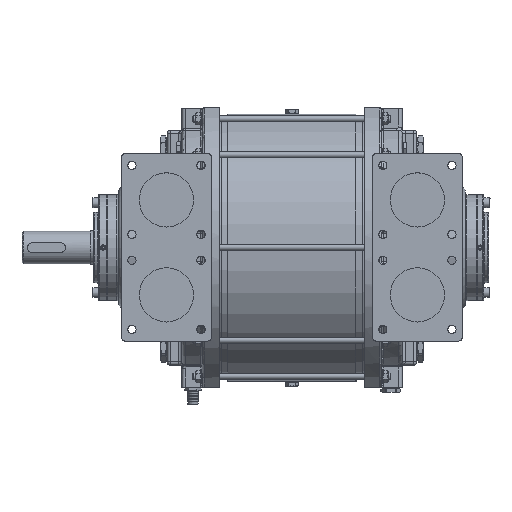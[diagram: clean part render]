
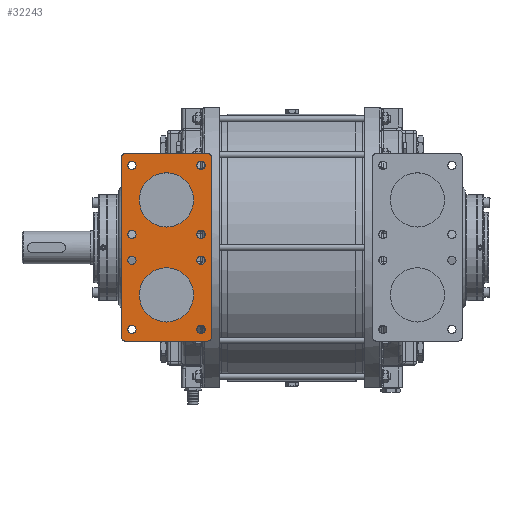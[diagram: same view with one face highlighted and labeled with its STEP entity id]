
A CAD part, top view. The second image highlights one B-rep face of the part: STEP entity #32243.
In plain terms, the highlighted planar face has unit normal (0, 0, 1).
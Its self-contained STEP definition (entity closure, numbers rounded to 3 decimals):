
#1930=FACE_BOUND('',#5820,.T.);
#1931=FACE_BOUND('',#5821,.T.);
#1932=FACE_BOUND('',#5822,.T.);
#1933=FACE_BOUND('',#5823,.T.);
#1934=FACE_BOUND('',#5824,.T.);
#1935=FACE_BOUND('',#5825,.T.);
#1936=FACE_BOUND('',#5826,.T.);
#1937=FACE_BOUND('',#5827,.T.);
#1938=FACE_BOUND('',#5828,.T.);
#1939=FACE_BOUND('',#5829,.T.);
#2535=PLANE('',#35025);
#3721=FACE_OUTER_BOUND('',#5819,.T.);
#5819=EDGE_LOOP('',(#24231,#24232,#24233,#24234,#24235,#24236,#24237,#24238));
#5820=EDGE_LOOP('',(#24239));
#5821=EDGE_LOOP('',(#24240));
#5822=EDGE_LOOP('',(#24241));
#5823=EDGE_LOOP('',(#24242));
#5824=EDGE_LOOP('',(#24243));
#5825=EDGE_LOOP('',(#24244));
#5826=EDGE_LOOP('',(#24245));
#5827=EDGE_LOOP('',(#24246));
#5828=EDGE_LOOP('',(#24247));
#5829=EDGE_LOOP('',(#24248));
#7787=LINE('',#53021,#9500);
#7788=LINE('',#53025,#9501);
#7789=LINE('',#53029,#9502);
#7790=LINE('',#53033,#9503);
#9500=VECTOR('',#41375,10.);
#9501=VECTOR('',#41378,10.);
#9502=VECTOR('',#41381,10.);
#9503=VECTOR('',#41384,10.);
#10300=CIRCLE('',#33224,50.);
#10306=CIRCLE('',#33236,50.);
#11120=CIRCLE('',#35026,6.);
#11121=CIRCLE('',#35027,6.);
#11122=CIRCLE('',#35028,6.);
#11123=CIRCLE('',#35029,6.);
#11124=CIRCLE('',#35030,7.5);
#11125=CIRCLE('',#35031,7.5);
#11126=CIRCLE('',#35032,7.5);
#11127=CIRCLE('',#35033,7.5);
#11128=CIRCLE('',#35034,7.5);
#11129=CIRCLE('',#35035,7.5);
#11130=CIRCLE('',#35036,7.5);
#11131=CIRCLE('',#35037,7.5);
#12091=VERTEX_POINT('',#45833);
#12097=VERTEX_POINT('',#45854);
#13699=VERTEX_POINT('',#53019);
#13700=VERTEX_POINT('',#53020);
#13701=VERTEX_POINT('',#53022);
#13702=VERTEX_POINT('',#53024);
#13703=VERTEX_POINT('',#53026);
#13704=VERTEX_POINT('',#53028);
#13705=VERTEX_POINT('',#53030);
#13706=VERTEX_POINT('',#53032);
#13707=VERTEX_POINT('',#53035);
#13708=VERTEX_POINT('',#53037);
#13709=VERTEX_POINT('',#53039);
#13710=VERTEX_POINT('',#53041);
#13711=VERTEX_POINT('',#53043);
#13712=VERTEX_POINT('',#53045);
#13713=VERTEX_POINT('',#53047);
#13714=VERTEX_POINT('',#53049);
#14931=EDGE_CURVE('',#12091,#12091,#10300,.T.);
#14940=EDGE_CURVE('',#12097,#12097,#10306,.T.);
#17364=EDGE_CURVE('',#13699,#13700,#7787,.T.);
#17365=EDGE_CURVE('',#13700,#13701,#11120,.T.);
#17366=EDGE_CURVE('',#13701,#13702,#7788,.T.);
#17367=EDGE_CURVE('',#13702,#13703,#11121,.T.);
#17368=EDGE_CURVE('',#13703,#13704,#7789,.T.);
#17369=EDGE_CURVE('',#13704,#13705,#11122,.T.);
#17370=EDGE_CURVE('',#13705,#13706,#7790,.T.);
#17371=EDGE_CURVE('',#13706,#13699,#11123,.T.);
#17372=EDGE_CURVE('',#13707,#13707,#11124,.T.);
#17373=EDGE_CURVE('',#13708,#13708,#11125,.T.);
#17374=EDGE_CURVE('',#13709,#13709,#11126,.T.);
#17375=EDGE_CURVE('',#13710,#13710,#11127,.T.);
#17376=EDGE_CURVE('',#13711,#13711,#11128,.T.);
#17377=EDGE_CURVE('',#13712,#13712,#11129,.T.);
#17378=EDGE_CURVE('',#13713,#13713,#11130,.T.);
#17379=EDGE_CURVE('',#13714,#13714,#11131,.T.);
#24231=ORIENTED_EDGE('',*,*,#17364,.T.);
#24232=ORIENTED_EDGE('',*,*,#17365,.T.);
#24233=ORIENTED_EDGE('',*,*,#17366,.T.);
#24234=ORIENTED_EDGE('',*,*,#17367,.T.);
#24235=ORIENTED_EDGE('',*,*,#17368,.T.);
#24236=ORIENTED_EDGE('',*,*,#17369,.T.);
#24237=ORIENTED_EDGE('',*,*,#17370,.T.);
#24238=ORIENTED_EDGE('',*,*,#17371,.T.);
#24239=ORIENTED_EDGE('',*,*,#14931,.F.);
#24240=ORIENTED_EDGE('',*,*,#14940,.F.);
#24241=ORIENTED_EDGE('',*,*,#17372,.T.);
#24242=ORIENTED_EDGE('',*,*,#17373,.T.);
#24243=ORIENTED_EDGE('',*,*,#17374,.T.);
#24244=ORIENTED_EDGE('',*,*,#17375,.T.);
#24245=ORIENTED_EDGE('',*,*,#17376,.T.);
#24246=ORIENTED_EDGE('',*,*,#17377,.T.);
#24247=ORIENTED_EDGE('',*,*,#17378,.T.);
#24248=ORIENTED_EDGE('',*,*,#17379,.T.);
#32243=ADVANCED_FACE('',(#3721,#1930,#1931,#1932,#1933,#1934,#1935,#1936,
#1937,#1938,#1939),#2535,.F.);
#33224=AXIS2_PLACEMENT_3D('',#45834,#36858,#36859);
#33236=AXIS2_PLACEMENT_3D('',#45855,#36885,#36886);
#35025=AXIS2_PLACEMENT_3D('',#53018,#41373,#41374);
#35026=AXIS2_PLACEMENT_3D('',#53023,#41376,#41377);
#35027=AXIS2_PLACEMENT_3D('',#53027,#41379,#41380);
#35028=AXIS2_PLACEMENT_3D('',#53031,#41382,#41383);
#35029=AXIS2_PLACEMENT_3D('',#53034,#41385,#41386);
#35030=AXIS2_PLACEMENT_3D('',#53036,#41387,#41388);
#35031=AXIS2_PLACEMENT_3D('',#53038,#41389,#41390);
#35032=AXIS2_PLACEMENT_3D('',#53040,#41391,#41392);
#35033=AXIS2_PLACEMENT_3D('',#53042,#41393,#41394);
#35034=AXIS2_PLACEMENT_3D('',#53044,#41395,#41396);
#35035=AXIS2_PLACEMENT_3D('',#53046,#41397,#41398);
#35036=AXIS2_PLACEMENT_3D('',#53048,#41399,#41400);
#35037=AXIS2_PLACEMENT_3D('',#53050,#41401,#41402);
#36858=DIRECTION('center_axis',(0.,0.,
1.));
#36859=DIRECTION('ref_axis',(-1.,0.,0.));
#36885=DIRECTION('center_axis',(0.,0.,
1.));
#36886=DIRECTION('ref_axis',(-1.,0.,0.));
#41373=DIRECTION('center_axis',(0.,0.,
-1.));
#41374=DIRECTION('ref_axis',(-1.,0.,0.));
#41375=DIRECTION('',(0.,1.,0.));
#41376=DIRECTION('center_axis',(0.,0.,
1.));
#41377=DIRECTION('ref_axis',(0.707,0.707,0.));
#41378=DIRECTION('',(-1.,0.,0.));
#41379=DIRECTION('center_axis',(0.,0.,
1.));
#41380=DIRECTION('ref_axis',(-0.707,0.707,0.));
#41381=DIRECTION('',(0.,-1.,0.));
#41382=DIRECTION('center_axis',(0.,0.,
1.));
#41383=DIRECTION('ref_axis',(-0.707,-0.707,0.));
#41384=DIRECTION('',(1.,0.,0.));
#41385=DIRECTION('center_axis',(0.,0.,
1.));
#41386=DIRECTION('ref_axis',(0.707,-0.707,0.));
#41387=DIRECTION('center_axis',(0.,0.,
-1.));
#41388=DIRECTION('ref_axis',(0.,1.,0.));
#41389=DIRECTION('center_axis',(0.,0.,
-1.));
#41390=DIRECTION('ref_axis',(0.,1.,0.));
#41391=DIRECTION('center_axis',(0.,0.,
-1.));
#41392=DIRECTION('ref_axis',(0.,1.,0.));
#41393=DIRECTION('center_axis',(0.,0.,
-1.));
#41394=DIRECTION('ref_axis',(0.,1.,0.));
#41395=DIRECTION('center_axis',(0.,0.,
-1.));
#41396=DIRECTION('ref_axis',(0.,1.,0.));
#41397=DIRECTION('center_axis',(0.,0.,
-1.));
#41398=DIRECTION('ref_axis',(0.,1.,0.));
#41399=DIRECTION('center_axis',(0.,0.,
-1.));
#41400=DIRECTION('ref_axis',(0.,1.,0.));
#41401=DIRECTION('center_axis',(0.,0.,
-1.));
#41402=DIRECTION('ref_axis',(0.,1.,0.));
#45833=CARTESIAN_POINT('',(-181.25,87.5,311.));
#45834=CARTESIAN_POINT('Origin',(-231.25,87.5,311.));
#45854=CARTESIAN_POINT('',(-181.25,-87.5,311.));
#45855=CARTESIAN_POINT('Origin',(-231.25,-87.5,311.));
#53018=CARTESIAN_POINT('Origin',(-231.25,0.,
311.));
#53019=CARTESIAN_POINT('',(-148.75,-166.5,311.));
#53020=CARTESIAN_POINT('',(-148.75,166.5,311.));
#53021=CARTESIAN_POINT('',(-148.75,-86.25,311.));
#53022=CARTESIAN_POINT('',(-154.75,172.5,311.));
#53023=CARTESIAN_POINT('Origin',(-154.75,166.5,311.));
#53024=CARTESIAN_POINT('',(-307.75,172.5,311.));
#53025=CARTESIAN_POINT('',(-190.,172.5,311.));
#53026=CARTESIAN_POINT('',(-313.75,166.5,311.));
#53027=CARTESIAN_POINT('Origin',(-307.75,166.5,311.));
#53028=CARTESIAN_POINT('',(-313.75,-166.5,311.));
#53029=CARTESIAN_POINT('',(-313.75,86.25,311.));
#53030=CARTESIAN_POINT('',(-307.75,-172.5,311.));
#53031=CARTESIAN_POINT('Origin',(-307.75,-166.5,311.));
#53032=CARTESIAN_POINT('',(-154.75,-172.5,311.));
#53033=CARTESIAN_POINT('',(-272.5,-172.5,311.));
#53034=CARTESIAN_POINT('Origin',(-154.75,-166.5,311.));
#53035=CARTESIAN_POINT('',(-294.89,143.64,311.));
#53036=CARTESIAN_POINT('Origin',(-294.89,151.14,311.));
#53037=CARTESIAN_POINT('',(-167.61,16.36,311.));
#53038=CARTESIAN_POINT('Origin',(-167.61,23.86,311.));
#53039=CARTESIAN_POINT('',(-294.89,-158.64,311.));
#53040=CARTESIAN_POINT('Origin',(-294.89,-151.14,311.));
#53041=CARTESIAN_POINT('',(-167.61,-31.36,311.));
#53042=CARTESIAN_POINT('Origin',(-167.61,-23.86,311.));
#53043=CARTESIAN_POINT('',(-167.61,-158.64,311.));
#53044=CARTESIAN_POINT('Origin',(-167.61,-151.14,311.));
#53045=CARTESIAN_POINT('',(-294.89,-31.36,311.));
#53046=CARTESIAN_POINT('Origin',(-294.89,-23.86,311.));
#53047=CARTESIAN_POINT('',(-294.89,16.36,311.));
#53048=CARTESIAN_POINT('Origin',(-294.89,23.86,311.));
#53049=CARTESIAN_POINT('',(-167.61,143.64,311.));
#53050=CARTESIAN_POINT('Origin',(-167.61,151.14,311.));
